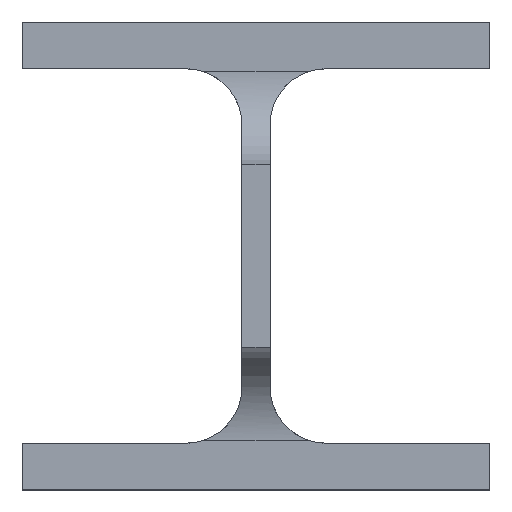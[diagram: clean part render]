
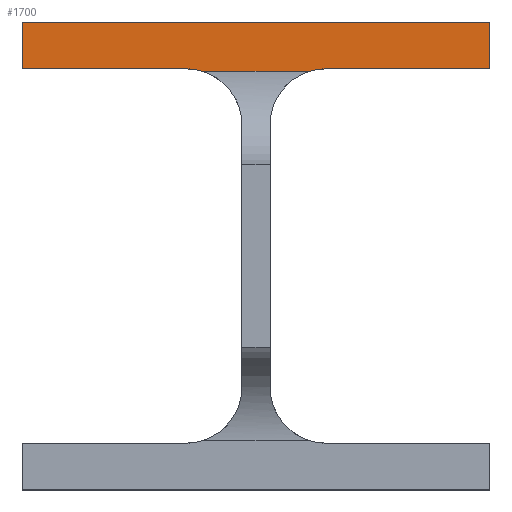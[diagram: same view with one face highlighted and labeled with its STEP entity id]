
A CAD part, front view. The second image highlights one B-rep face of the part: STEP entity #1700.
In plain terms, the highlighted planar face has unit normal (0, -1, 0).
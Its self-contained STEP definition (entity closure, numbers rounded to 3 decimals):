
#18 = CARTESIAN_POINT ( 'NONE',  ( 5950., 2057., 2380. ) ) ;
#27 = CIRCLE ( 'NONE', #2648, 12. ) ;
#83 = ORIENTED_EDGE ( 'NONE', *, *, #493, .F. ) ;
#111 = CARTESIAN_POINT ( 'NONE',  ( 6015., 2057., 2380. ) ) ;
#132 = ORIENTED_EDGE ( 'NONE', *, *, #947, .F. ) ;
#156 = LINE ( 'NONE', #111, #3411 ) ;
#493 = EDGE_CURVE ( 'NONE', #2791, #4008, #2401, .T. ) ;
#582 = AXIS2_PLACEMENT_3D ( 'NONE', #1993, #3071, #3098 ) ;
#597 = CARTESIAN_POINT ( 'NONE',  ( 6050., 2057., 2390. ) ) ;
#621 = DIRECTION ( 'NONE',  ( -1., 0., 0. ) ) ;
#624 = DIRECTION ( 'NONE',  ( 0., 0., -1. ) ) ;
#691 = DIRECTION ( 'NONE',  ( -1., 0., 0. ) ) ;
#947 = EDGE_CURVE ( 'NONE', #4214, #2694, #1576, .T. ) ;
#1039 = CARTESIAN_POINT ( 'NONE',  ( 6935., 2057., 2390. ) ) ;
#1150 = ORIENTED_EDGE ( 'NONE', *, *, #2727, .F. ) ;
#1177 = VERTEX_POINT ( 'NONE', #3905 ) ;
#1223 = ORIENTED_EDGE ( 'NONE', *, *, #2960, .F. ) ;
#1231 = VERTEX_POINT ( 'NONE', #3946 ) ;
#1305 = CARTESIAN_POINT ( 'NONE',  ( 6935., 2057., 2379.5 ) ) ;
#1357 = VECTOR ( 'NONE', #624, 1000. ) ;
#1507 = VECTOR ( 'NONE', #3513, 1000. ) ;
#1523 = CARTESIAN_POINT ( 'NONE',  ( 6011.572, 2057., 2379.5 ) ) ;
#1576 = CIRCLE ( 'NONE', #582, 12. ) ;
#1589 = CARTESIAN_POINT ( 'NONE',  ( 6935., 2057., 2379.5 ) ) ;
#1700 = ADVANCED_FACE ( 'NONE', ( #3168 ), #3452, .F. ) ;
#1849 = ORIENTED_EDGE ( 'NONE', *, *, #3919, .F. ) ;
#1916 = DIRECTION ( 'NONE',  ( 0., -1., 0. ) ) ;
#1944 = DIRECTION ( 'NONE',  ( -1., 0., 0. ) ) ;
#1988 = ORIENTED_EDGE ( 'NONE', *, *, #4125, .F. ) ;
#1993 = CARTESIAN_POINT ( 'NONE',  ( 5985., 2057., 2368. ) ) ;
#2007 = LINE ( 'NONE', #3461, #1507 ) ;
#2041 = AXIS2_PLACEMENT_3D ( 'NONE', #1305, #2816, #2772 ) ;
#2123 = CARTESIAN_POINT ( 'NONE',  ( 5950., 2057., 2390. ) ) ;
#2401 = LINE ( 'NONE', #2471, #4490 ) ;
#2446 = LINE ( 'NONE', #1039, #4333 ) ;
#2471 = CARTESIAN_POINT ( 'NONE',  ( 5950., 2057., 2390. ) ) ;
#2648 = AXIS2_PLACEMENT_3D ( 'NONE', #4481, #1916, #2712 ) ;
#2694 = VERTEX_POINT ( 'NONE', #2861 ) ;
#2712 = DIRECTION ( 'NONE',  ( 0., 0., 1. ) ) ;
#2727 = EDGE_CURVE ( 'NONE', #3147, #1177, #3192, .T. ) ;
#2771 = EDGE_LOOP ( 'NONE', ( #1223, #1150, #4283, #83, #1849, #132, #1988, #3547 ) ) ;
#2772 = DIRECTION ( 'NONE',  ( 0., 0., 1. ) ) ;
#2791 = VERTEX_POINT ( 'NONE', #18 ) ;
#2816 = DIRECTION ( 'NONE',  ( 0., 1., 0. ) ) ;
#2858 = CARTESIAN_POINT ( 'NONE',  ( 5988.428, 2057., 2379.5 ) ) ;
#2861 = CARTESIAN_POINT ( 'NONE',  ( 5985., 2057., 2380. ) ) ;
#2960 = EDGE_CURVE ( 'NONE', #1177, #1231, #156, .T. ) ;
#3071 = DIRECTION ( 'NONE',  ( 0., -1., 0. ) ) ;
#3082 = EDGE_CURVE ( 'NONE', #3147, #4008, #2446, .T. ) ;
#3098 = DIRECTION ( 'NONE',  ( 0., 0., 1. ) ) ;
#3123 = DIRECTION ( 'NONE',  ( 0., 0., 1. ) ) ;
#3147 = VERTEX_POINT ( 'NONE', #597 ) ;
#3168 = FACE_OUTER_BOUND ( 'NONE', #2771, .T. ) ;
#3192 = LINE ( 'NONE', #4664, #1357 ) ;
#3400 = LINE ( 'NONE', #1589, #4248 ) ;
#3411 = VECTOR ( 'NONE', #1944, 1000. ) ;
#3452 = PLANE ( 'NONE',  #2041 ) ;
#3461 = CARTESIAN_POINT ( 'NONE',  ( 5950., 2057., 2380. ) ) ;
#3513 = DIRECTION ( 'NONE',  ( -1., 0., 0. ) ) ;
#3536 = VERTEX_POINT ( 'NONE', #1523 ) ;
#3547 = ORIENTED_EDGE ( 'NONE', *, *, #4271, .F. ) ;
#3905 = CARTESIAN_POINT ( 'NONE',  ( 6050., 2057., 2380. ) ) ;
#3919 = EDGE_CURVE ( 'NONE', #2694, #2791, #2007, .T. ) ;
#3946 = CARTESIAN_POINT ( 'NONE',  ( 6015., 2057., 2380. ) ) ;
#4008 = VERTEX_POINT ( 'NONE', #2123 ) ;
#4125 = EDGE_CURVE ( 'NONE', #3536, #4214, #3400, .T. ) ;
#4214 = VERTEX_POINT ( 'NONE', #2858 ) ;
#4248 = VECTOR ( 'NONE', #621, 1000. ) ;
#4271 = EDGE_CURVE ( 'NONE', #1231, #3536, #27, .T. ) ;
#4283 = ORIENTED_EDGE ( 'NONE', *, *, #3082, .T. ) ;
#4333 = VECTOR ( 'NONE', #691, 1000. ) ;
#4481 = CARTESIAN_POINT ( 'NONE',  ( 6015., 2057., 2368. ) ) ;
#4490 = VECTOR ( 'NONE', #3123, 1000. ) ;
#4664 = CARTESIAN_POINT ( 'NONE',  ( 6050., 2057., 2380. ) ) ;
